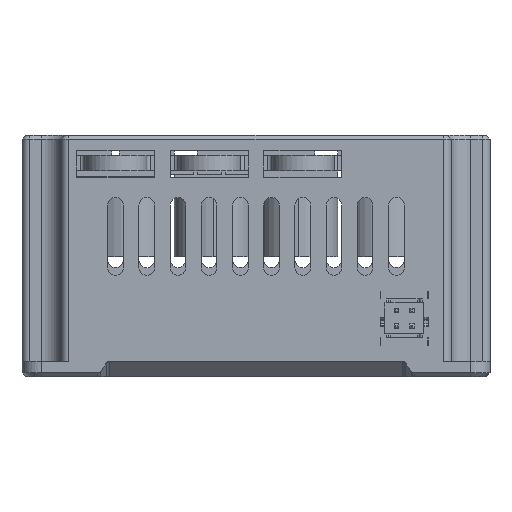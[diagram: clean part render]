
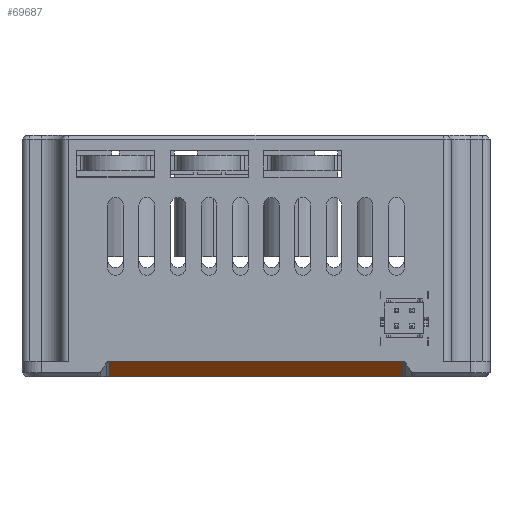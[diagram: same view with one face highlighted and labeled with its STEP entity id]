
A CAD part, left-side view. The second image highlights one B-rep face of the part: STEP entity #69687.
In plain terms, the highlighted planar face has unit normal (-0.707, 0, -0.707).
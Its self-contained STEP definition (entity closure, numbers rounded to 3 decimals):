
#3995=DIRECTION('',(0.,-1.,0.));
#3996=VECTOR('',#3995,37.586);
#3997=CARTESIAN_POINT('',(-30.,18.793,-8.));
#3998=LINE('',#3997,#3996);
#23211=DIRECTION('',(0.,1.,0.));
#23212=VECTOR('',#23211,37.586);
#23213=CARTESIAN_POINT('',(-28.,-18.793,-10.));
#23214=LINE('',#23213,#23212);
#24035=DIRECTION('',(0.707,0.,-0.707));
#24036=VECTOR('',#24035,2.828);
#24037=CARTESIAN_POINT('',(-30.,-18.793,-8.));
#24038=LINE('',#24037,#24036);
#24039=DIRECTION('',(-0.707,0.,0.707));
#24040=VECTOR('',#24039,2.828);
#24041=CARTESIAN_POINT('',(-28.,18.793,-10.));
#24042=LINE('',#24041,#24040);
#34974=CARTESIAN_POINT('',(-30.,-18.793,-8.));
#34975=CARTESIAN_POINT('',(-28.,-18.793,-10.));
#34976=VERTEX_POINT('',#34974);
#34977=VERTEX_POINT('',#34975);
#34982=CARTESIAN_POINT('',(-28.,18.793,-10.));
#34983=CARTESIAN_POINT('',(-30.,18.793,-8.));
#34984=VERTEX_POINT('',#34982);
#34985=VERTEX_POINT('',#34983);
#69675=CARTESIAN_POINT('',(-29.5,0.,-8.5));
#69676=DIRECTION('',(-0.707,0.,-0.707));
#69677=DIRECTION('',(0.707,0.,-0.707));
#69678=AXIS2_PLACEMENT_3D('',#69675,#69676,#69677);
#69679=PLANE('',#69678);
#69681=ORIENTED_EDGE('',*,*,#69680,.T.);
#69682=ORIENTED_EDGE('',*,*,#68293,.T.);
#69683=ORIENTED_EDGE('',*,*,#69667,.T.);
#69684=ORIENTED_EDGE('',*,*,#39719,.T.);
#69685=EDGE_LOOP('',(#69681,#69682,#69683,#69684));
#69686=FACE_OUTER_BOUND('',#69685,.F.);
#39719=EDGE_CURVE('',#34985,#34976,#3998,.T.);
#68293=EDGE_CURVE('',#34977,#34984,#23214,.T.);
#69667=EDGE_CURVE('',#34984,#34985,#24042,.T.);
#69680=EDGE_CURVE('',#34976,#34977,#24038,.T.);
#69687=ADVANCED_FACE('',(#69686),#69679,.T.);
